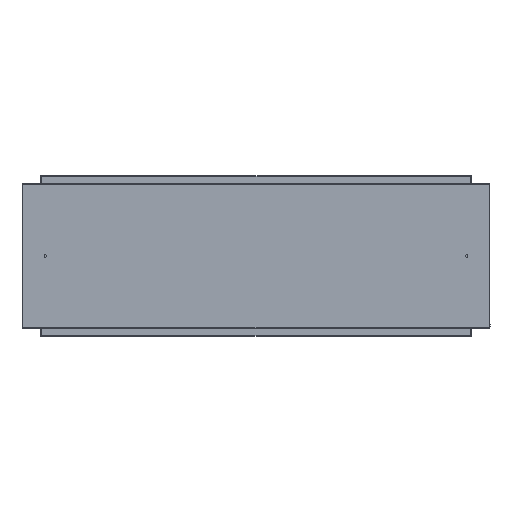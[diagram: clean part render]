
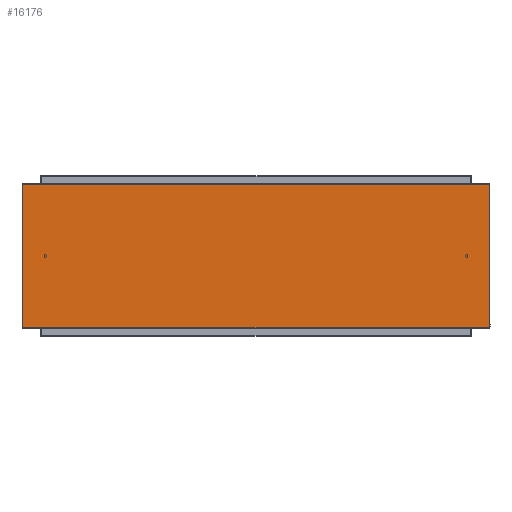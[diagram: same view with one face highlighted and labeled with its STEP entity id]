
A CAD part, left-side view. The second image highlights one B-rep face of the part: STEP entity #16176.
In plain terms, the highlighted planar face has unit normal (-1, 0, 0) as drawn and (0, 0, -1) by its records, which use the part's own axes.
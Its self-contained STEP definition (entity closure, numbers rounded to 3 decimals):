
#2450 = VERTEX_POINT ( 'NONE', #23803 ) ;
#2727 = VECTOR ( 'NONE', #49748, 1000. ) ;
#6496 = PLANE ( 'NONE',  #90261 ) ;
#6512 = DIRECTION ( 'NONE',  ( 0., 1., 0. ) ) ;
#7079 = LINE ( 'NONE', #35850, #2727 ) ;
#7845 = EDGE_CURVE ( 'NONE', #15255, #78237, #93758, .T. ) ;
#12271 = FACE_OUTER_BOUND ( 'NONE', #52298, .T. ) ;
#12740 = DIRECTION ( 'NONE',  ( 0., 0., 1. ) ) ;
#13682 = LINE ( 'NONE', #75809, #79858 ) ;
#14208 = CARTESIAN_POINT ( 'NONE',  ( -183.49, -598.5, 0. ) ) ;
#15255 = VERTEX_POINT ( 'NONE', #61060 ) ;
#16176 = ADVANCED_FACE ( 'NONE', ( #12271 ), #6496, .F. ) ;
#21372 = VERTEX_POINT ( 'NONE', #24297 ) ;
#22264 = EDGE_CURVE ( 'NONE', #2450, #15255, #13682, .T. ) ;
#23803 = CARTESIAN_POINT ( 'NONE',  ( -183.49, 598.5, 0. ) ) ;
#24111 = VECTOR ( 'NONE', #73603, 1000. ) ;
#24297 = CARTESIAN_POINT ( 'NONE',  ( 183.49, 598.5, 0. ) ) ;
#30461 = DIRECTION ( 'NONE',  ( 0., -1., 0. ) ) ;
#35850 = CARTESIAN_POINT ( 'NONE',  ( -183.49, 598.5, 0. ) ) ;
#46467 = ORIENTED_EDGE ( 'NONE', *, *, #63002, .F. ) ;
#49748 = DIRECTION ( 'NONE',  ( -1., 0., 0. ) ) ;
#52298 = EDGE_LOOP ( 'NONE', ( #53879, #46467, #53835, #73146 ) ) ;
#53835 = ORIENTED_EDGE ( 'NONE', *, *, #86286, .F. ) ;
#53879 = ORIENTED_EDGE ( 'NONE', *, *, #22264, .F. ) ;
#56821 = CARTESIAN_POINT ( 'NONE',  ( -183.49, 598.5, 0. ) ) ;
#59674 = CARTESIAN_POINT ( 'NONE',  ( 183.49, 598.5, 0. ) ) ;
#61060 = CARTESIAN_POINT ( 'NONE',  ( -183.49, -598.5, 0. ) ) ;
#62418 = VECTOR ( 'NONE', #6512, 1000. ) ;
#63002 = EDGE_CURVE ( 'NONE', #21372, #2450, #7079, .T. ) ;
#66622 = CARTESIAN_POINT ( 'NONE',  ( 183.49, -598.5, 0. ) ) ;
#73146 = ORIENTED_EDGE ( 'NONE', *, *, #7845, .F. ) ;
#73603 = DIRECTION ( 'NONE',  ( 1., 0., 0. ) ) ;
#75809 = CARTESIAN_POINT ( 'NONE',  ( -183.49, 598.5, 0. ) ) ;
#78237 = VERTEX_POINT ( 'NONE', #66622 ) ;
#79858 = VECTOR ( 'NONE', #30461, 1000. ) ;
#80759 = LINE ( 'NONE', #59674, #62418 ) ;
#86286 = EDGE_CURVE ( 'NONE', #78237, #21372, #80759, .T. ) ;
#90261 = AXIS2_PLACEMENT_3D ( 'NONE', #56821, #12740, #94629 ) ;
#93758 = LINE ( 'NONE', #14208, #24111 ) ;
#94629 = DIRECTION ( 'NONE',  ( 1., 0., 0. ) ) ;
